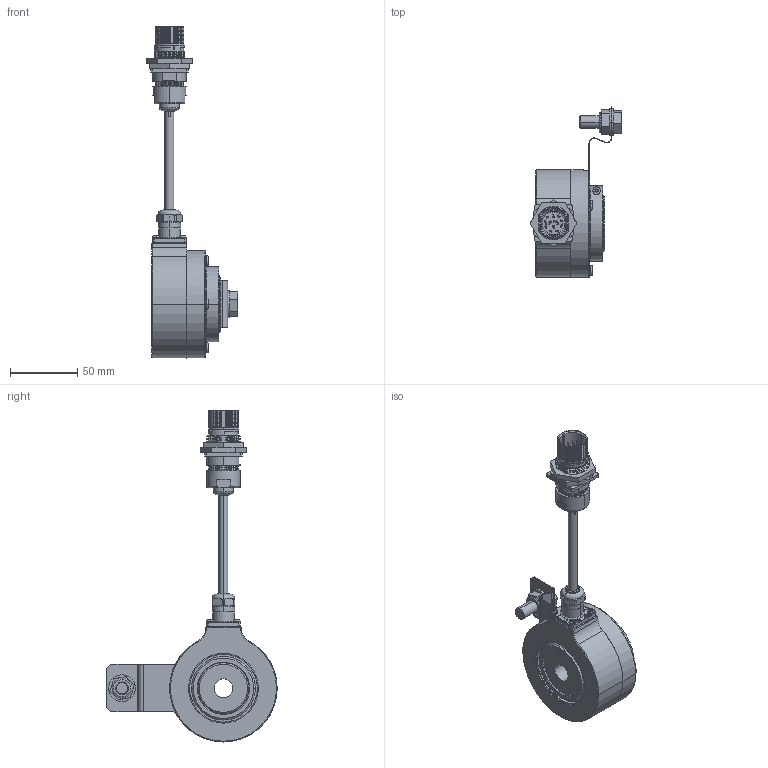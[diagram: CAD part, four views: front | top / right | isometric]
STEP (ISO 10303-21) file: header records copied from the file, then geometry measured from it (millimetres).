
FILE_DESCRIPTION (( 'STEP AP203' ), '1' );
FILE_NAME ('K80I.OXX.XXXXX.XH24814.6XR14.XXXX.step', '2025-12-09T10:21:32', ( '' ), ( '' ), 'SwSTEP 2.0', 'SolidWorks 2021', '' );
FILE_SCHEMA (( 'CONFIG_CONTROL_DESIGN' ));
Length unit declared in the file: millimetre
Products named in the file (1): K80I.OXX.XXXXX.XH24814.6XR14.XXXX
Bounding box: 68.27 x 127.03 x 247.43 mm (x, y, z)
Volume: 250959.2 mm3; surface area: 106801.7 mm2
Topology: 34 solids, 36 shells, 2123 faces, 5445 edges, 3495 vertices
Faces by surface type: cylinder 814, plane 671, cone 390, bspline 130, torus 76, sphere 42
Entity records: 73045 total; most frequent: CARTESIAN_POINT 22262, ORIENTED_EDGE 10826, DIRECTION 10438, EDGE_CURVE 5413, AXIS2_PLACEMENT_3D 4097, VERTEX_POINT 3495, EDGE_LOOP 2342, LINE 2244
